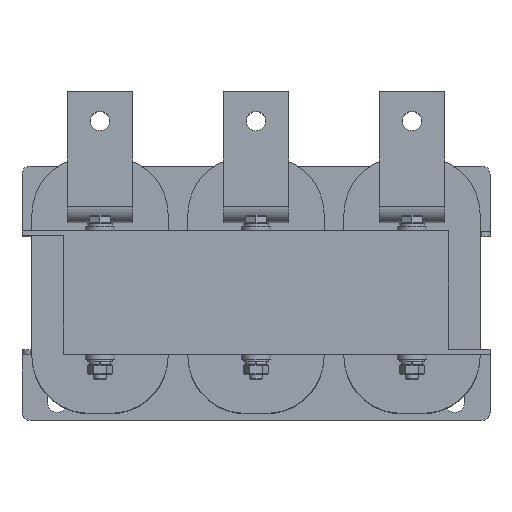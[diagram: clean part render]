
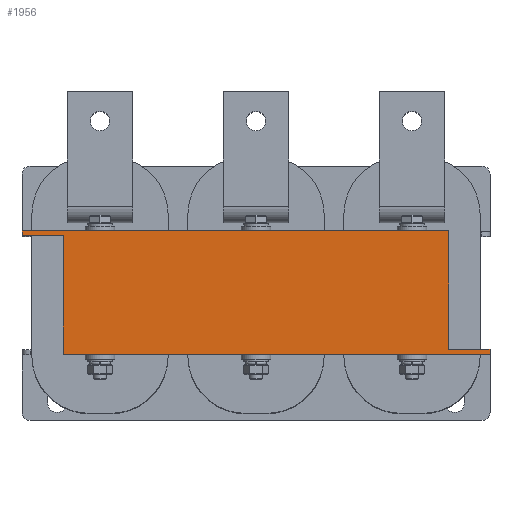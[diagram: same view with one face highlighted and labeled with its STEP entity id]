
A CAD part, top view. The second image highlights one B-rep face of the part: STEP entity #1956.
In plain terms, the highlighted planar face has unit normal (0, 0, 1).
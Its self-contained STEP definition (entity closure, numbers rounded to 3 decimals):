
#1956=ADVANCED_FACE('',(#2654),#2656,.T.);
#2654=FACE_BOUND('',#2655,.T.);
#2655=EDGE_LOOP('',(#3510,#3511,#3512,#3513,#3514,#3515,#3516,#3517));
#2656=PLANE('',#2657);
#2657=AXIS2_PLACEMENT_3D('',#2658,#2659,#2660);
#2658=CARTESIAN_POINT('',(0.,0.,52.));
#2659=DIRECTION('',(0.,0.,1.));
#2660=DIRECTION('',(-1.,0.,0.));
#3510=ORIENTED_EDGE('',*,*,#3946,.T.);
#3511=ORIENTED_EDGE('',*,*,#3925,.T.);
#3512=ORIENTED_EDGE('',*,*,#3947,.T.);
#3513=ORIENTED_EDGE('',*,*,#3917,.T.);
#3514=ORIENTED_EDGE('',*,*,#3948,.T.);
#3515=ORIENTED_EDGE('',*,*,#3906,.T.);
#3516=ORIENTED_EDGE('',*,*,#3949,.T.);
#3517=ORIENTED_EDGE('',*,*,#3898,.T.);
#3898=EDGE_CURVE('',#4312,#4310,#4313,.T.);
#3906=EDGE_CURVE('',#4328,#4326,#4329,.T.);
#3917=EDGE_CURVE('',#4350,#4348,#4351,.T.);
#3925=EDGE_CURVE('',#4366,#4364,#4367,.T.);
#3946=EDGE_CURVE('',#4310,#4366,#4395,.T.);
#3947=EDGE_CURVE('',#4364,#4350,#4396,.T.);
#3948=EDGE_CURVE('',#4348,#4328,#4397,.T.);
#3949=EDGE_CURVE('',#4326,#4312,#4398,.T.);
#4310=VERTEX_POINT('',#5170);
#4312=VERTEX_POINT('',#5174);
#4313=LINE('',#5175,#5176);
#4326=VERTEX_POINT('',#5204);
#4328=VERTEX_POINT('',#5208);
#4329=LINE('',#5209,#5210);
#4348=VERTEX_POINT('',#5253);
#4350=VERTEX_POINT('',#5257);
#4351=LINE('',#5258,#5259);
#4364=VERTEX_POINT('',#5287);
#4366=VERTEX_POINT('',#5291);
#4367=LINE('',#5292,#5293);
#4395=LINE('',#5367,#5368);
#4396=LINE('',#5370,#5371);
#4397=LINE('',#5373,#5374);
#4398=LINE('',#5376,#5377);
#5170=CARTESIAN_POINT('',(-117.5,34.5,52.));
#5174=CARTESIAN_POINT('',(-142.5,34.5,52.));
#5175=CARTESIAN_POINT('',(-142.5,34.5,52.));
#5176=VECTOR('',#5177,1.);
#5177=DIRECTION('',(1.,0.,0.));
#5204=CARTESIAN_POINT('',(-142.5,37.5,52.));
#5208=CARTESIAN_POINT('',(117.5,37.5,52.));
#5209=CARTESIAN_POINT('',(117.5,37.5,52.));
#5210=VECTOR('',#5211,1.);
#5211=DIRECTION('',(-1.,0.,0.));
#5253=CARTESIAN_POINT('',(117.5,-34.5,52.));
#5257=CARTESIAN_POINT('',(142.5,-34.5,52.));
#5258=CARTESIAN_POINT('',(142.5,-34.5,52.));
#5259=VECTOR('',#5260,1.);
#5260=DIRECTION('',(-1.,0.,0.));
#5287=CARTESIAN_POINT('',(142.5,-37.5,52.));
#5291=CARTESIAN_POINT('',(-117.5,-37.5,52.));
#5292=CARTESIAN_POINT('',(-117.5,-37.5,52.));
#5293=VECTOR('',#5294,1.);
#5294=DIRECTION('',(1.,0.,0.));
#5367=CARTESIAN_POINT('',(-117.5,34.5,52.));
#5368=VECTOR('',#5369,1.);
#5369=DIRECTION('',(0.,-1.,0.));
#5370=CARTESIAN_POINT('',(142.5,-37.5,52.));
#5371=VECTOR('',#5372,1.);
#5372=DIRECTION('',(0.,1.,0.));
#5373=CARTESIAN_POINT('',(117.5,-34.5,52.));
#5374=VECTOR('',#5375,1.);
#5375=DIRECTION('',(0.,1.,0.));
#5376=CARTESIAN_POINT('',(-142.5,37.5,52.));
#5377=VECTOR('',#5378,1.);
#5378=DIRECTION('',(0.,-1.,0.));
